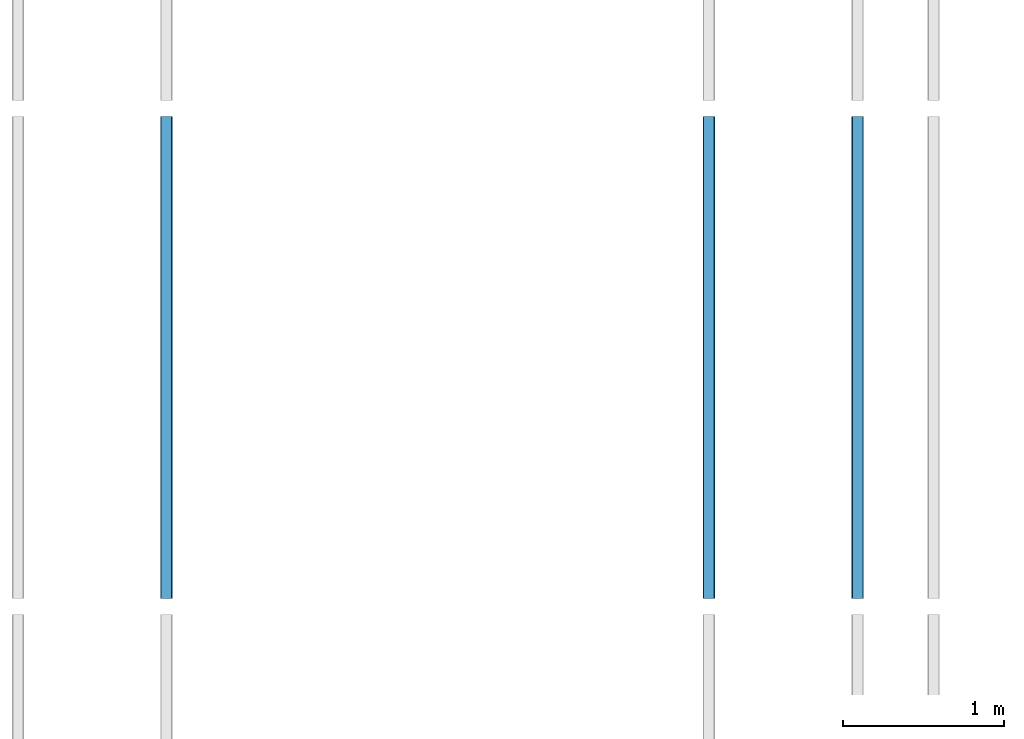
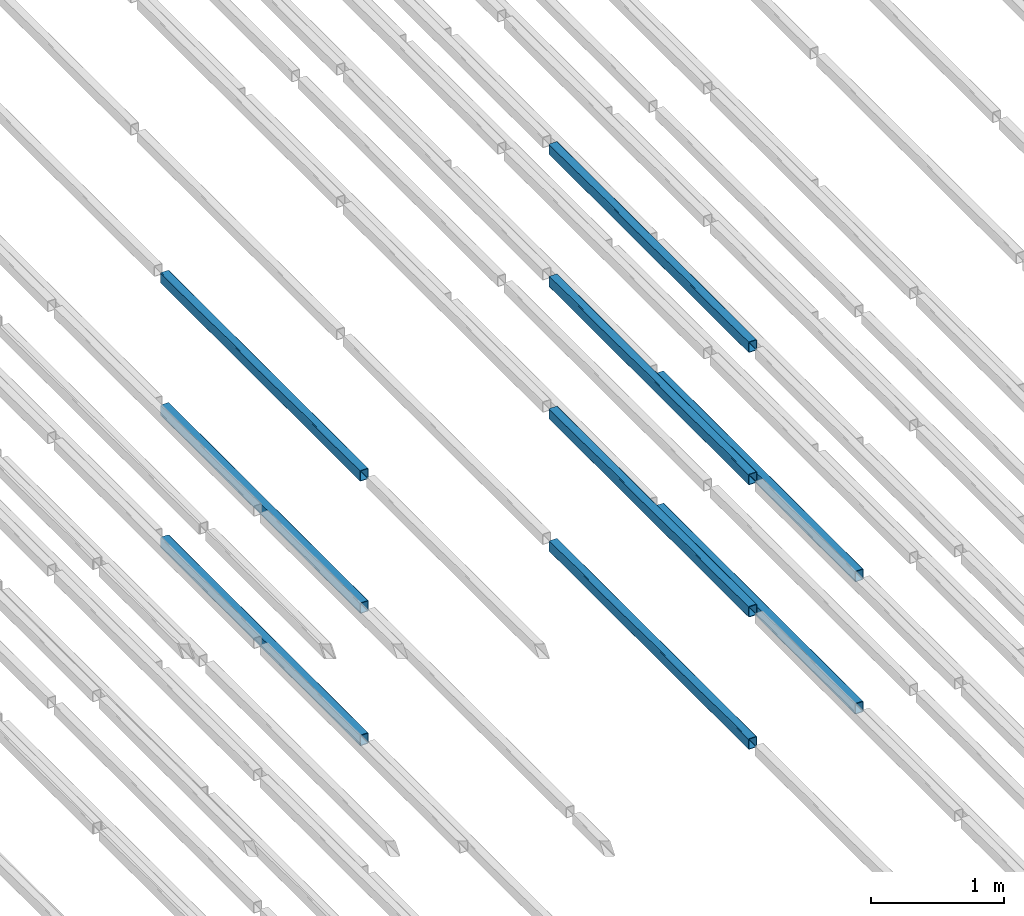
# One storey, part 48 of 290: 9 beams.
"""IFC2X3 building model written with IfcOpenShell, lengths in metres."""

from ifc_helpers import new_model, entity, si_unit, converted_unit, derived_unit, direction, frame, frame_2d, origin, place, context, subcontext, project, spatial, polyline, circle_curve, parameter, trimmed, segment, composite_curve, outline, extrude, material, type_object, element, save


model = new_model("IFC2X3")

# Units and contexts
model_context = context("Model", 3, precision=1e-05, world=origin(), true_north=direction((6.12303176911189e-17, 1.0)))
body_context = subcontext(model_context, "Body", "Model", "MODEL_VIEW")
ifc_project = project(units=[si_unit("LENGTHUNIT", "METRE"), si_unit("AREAUNIT", "SQUARE_METRE"), si_unit("VOLUMEUNIT", "CUBIC_METRE"), converted_unit("PLANEANGLEUNIT", "DEGREE", entity("IfcRatioMeasure", 0.0174532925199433), si_unit("PLANEANGLEUNIT", "RADIAN"), dimensions=[0, 0, 0, 0, 0, 0, 0]), si_unit("MASSUNIT", "GRAM", prefix="KILO"), derived_unit("MASSDENSITYUNIT", [(si_unit("MASSUNIT", "GRAM", prefix="KILO"), 1), (si_unit("LENGTHUNIT", "METRE"), -3)]), derived_unit("MOMENTOFINERTIAUNIT", [(si_unit("LENGTHUNIT", "METRE"), 4)]), si_unit("TIMEUNIT", "SECOND"), si_unit("FREQUENCYUNIT", "HERTZ"), si_unit("THERMODYNAMICTEMPERATUREUNIT", "DEGREE_CELSIUS"), derived_unit("THERMALTRANSMITTANCEUNIT", [(si_unit("MASSUNIT", "GRAM", prefix="KILO"), 1), (si_unit("THERMODYNAMICTEMPERATUREUNIT", "KELVIN"), -1), (si_unit("TIMEUNIT", "SECOND"), -3)]), derived_unit("VOLUMETRICFLOWRATEUNIT", [(si_unit("LENGTHUNIT", "METRE"), 3), (si_unit("TIMEUNIT", "SECOND"), -1)]), si_unit("ELECTRICCURRENTUNIT", "AMPERE"), si_unit("ELECTRICVOLTAGEUNIT", "VOLT"), si_unit("POWERUNIT", "WATT"), si_unit("FORCEUNIT", "NEWTON", prefix="KILO"), si_unit("ILLUMINANCEUNIT", "LUX"), si_unit("LUMINOUSFLUXUNIT", "LUMEN"), si_unit("LUMINOUSINTENSITYUNIT", "CANDELA"), derived_unit("USERDEFINED", [(si_unit("MASSUNIT", "GRAM", prefix="KILO"), -1), (si_unit("LENGTHUNIT", "METRE"), -2), (si_unit("TIMEUNIT", "SECOND"), 3), (si_unit("LUMINOUSFLUXUNIT", "LUMEN"), 1)]), derived_unit("LINEARVELOCITYUNIT", [(si_unit("LENGTHUNIT", "METRE"), 1), (si_unit("TIMEUNIT", "SECOND"), -1)]), si_unit("PRESSUREUNIT", "PASCAL"), derived_unit("USERDEFINED", [(si_unit("LENGTHUNIT", "METRE"), -2), (si_unit("MASSUNIT", "GRAM", prefix="KILO"), 1), (si_unit("TIMEUNIT", "SECOND"), -2)]), derived_unit("LINEARFORCEUNIT", [(si_unit("MASSUNIT", "GRAM", prefix="KILO"), 1), (si_unit("LENGTHUNIT", "METRE"), 1), (si_unit("TIMEUNIT", "SECOND"), -2), (si_unit("LENGTHUNIT", "METRE"), -1)]), derived_unit("PLANARFORCEUNIT", [(si_unit("MASSUNIT", "GRAM", prefix="KILO"), 1), (si_unit("LENGTHUNIT", "METRE"), 1), (si_unit("TIMEUNIT", "SECOND"), -2), (si_unit("LENGTHUNIT", "METRE"), -2)])], contexts=[model_context])

# Site, building, storey
site_placement = place(None, origin())
site = spatial("IfcSite", under=ifc_project, at=site_placement, Name="Default", CompositionType="ELEMENT")
building_placement = place(site_placement, origin())
building = spatial("IfcBuilding", under=site, at=building_placement, CompositionType="ELEMENT")
storey_placement = place(building_placement, frame((0.0, 0.0, 4.0)))
storey = spatial("IfcBuildingStorey", under=building, at=storey_placement, Name="01_OG", CompositionType="ELEMENT", Elevation=4.0)

# Beams
ifc_material = material(Name="Metall - Baustahl S235 blau")
beam_type = type_object("IfcBeamType", Name="RHS Träger (EN 10219-2):RHS 100 x 75 x 5", PredefinedType="NOTDEFINED")
beam_1_placement = place(storey_placement, frame((-196.415111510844, 36.448088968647, -1.2), z_axis=(0.0, 0.0, 1.0), x_axis=(0.0, 1.0, 0.0)))
element("IfcBeam", 1, at=beam_1_placement, inside=storey, type_object=beam_type, material=ifc_material, Name="RHS Träger (EN 10219-2):RHS 100 x 75 x 5", ObjectType="RHS Träger (EN 10219-2):RHS 100 x 75 x 5", context=body_context, shape_type="SweptSolid", body=[
    extrude(outline(composite_curve([segment(trimmed(circle_curve(frame_2d((-0.0274999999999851, -0.0400000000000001), x_axis=(1.0, 0.0)), 0.01), [parameter(180.0)], [parameter(270.0)], True, "PARAMETER"), True, "CONTINUOUS"), segment(polyline([(-0.0274999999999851, -0.05), (0.0274999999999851, -0.05)]), True, "CONTINUOUS"), segment(trimmed(circle_curve(frame_2d((0.0274999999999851, -0.0400000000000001), x_axis=(1.0, 0.0)), 0.01), [parameter(270.0)], [parameter(5.08888749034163e-14)], True, "PARAMETER"), True, "CONTINUOUS"), segment(polyline([(0.0375000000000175, -0.0400000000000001), (0.0375000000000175, 0.0400000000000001)]), True, "CONTINUOUS"), segment(trimmed(circle_curve(frame_2d((0.0274999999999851, 0.0400000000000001), x_axis=(1.0, 0.0)), 0.01), [parameter(360.0)], [parameter(89.9999999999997)], True, "PARAMETER"), True, "CONTINUOUS"), segment(polyline([(0.0274999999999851, 0.05), (-0.0274999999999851, 0.05)]), True, "CONTINUOUS"), segment(trimmed(circle_curve(frame_2d((-0.0274999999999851, 0.0400000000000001), x_axis=(1.0, 0.0)), 0.01), [parameter(90.0000000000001)], [parameter(180.0)], True, "PARAMETER"), True, "CONTINUOUS"), segment(polyline([(-0.0374999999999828, 0.0400000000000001), (-0.0374999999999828, -0.0400000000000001)]), True, "CONTINUOUS")], self_intersect=False), holes=[composite_curve([segment(polyline([(0.0274999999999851, -0.0450000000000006), (-0.0274999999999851, -0.0450000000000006)]), True, "CONTINUOUS"), segment(trimmed(circle_curve(frame_2d((-0.0274999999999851, -0.0400000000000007), x_axis=(1.0, 0.0)), 0.005), [parameter(180.0)], [parameter(270.0)], True, "PARAMETER"), False, "CONTINUOUS"), segment(polyline([(-0.0325000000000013, -0.0400000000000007), (-0.0325000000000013, 0.039999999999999)]), True, "CONTINUOUS"), segment(trimmed(circle_curve(frame_2d((-0.0274999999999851, 0.039999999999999), x_axis=(1.0, 0.0)), 0.005), [parameter(90.0000000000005)], [parameter(180.0)], True, "PARAMETER"), False, "CONTINUOUS"), segment(polyline([(-0.0274999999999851, 0.044999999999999), (0.0274999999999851, 0.044999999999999)]), True, "CONTINUOUS"), segment(trimmed(circle_curve(frame_2d((0.0274999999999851, 0.039999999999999), x_axis=(1.0, 0.0)), 0.005), [parameter(0.0)], [parameter(90.0000000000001)], True, "PARAMETER"), False, "CONTINUOUS"), segment(polyline([(0.0325000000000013, 0.039999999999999), (0.0325000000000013, -0.0400000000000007)]), True, "CONTINUOUS"), segment(trimmed(circle_curve(frame_2d((0.0274999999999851, -0.0400000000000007), x_axis=(1.0, 0.0)), 0.005), [parameter(270.0)], [parameter(4.07110999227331e-13)], True, "PARAMETER"), False, "CONTINUOUS")], self_intersect=False)]), frame((0.000100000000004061, 0.0375000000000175, -0.0500000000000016), z_axis=(1.0, 0.0, 0.0), x_axis=(0.0, -1.0, 0.0)), (0.0, 0.0, 1.0), 2.9998),
])
beam_2_placement = place(storey_placement, frame((-196.415111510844, 36.448088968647, 0.0150000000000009), z_axis=(0.0, 0.0, 1.0), x_axis=(0.0, 1.0, 0.0)))
element("IfcBeam", 2, at=beam_2_placement, inside=storey, type_object=beam_type, material=ifc_material, Name="RHS Träger (EN 10219-2):RHS 100 x 75 x 5", ObjectType="RHS Träger (EN 10219-2):RHS 100 x 75 x 5", context=body_context, shape_type="SweptSolid", body=[
    extrude(outline(composite_curve([segment(trimmed(circle_curve(frame_2d((-0.0274999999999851, -0.0400000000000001), x_axis=(1.0, 0.0)), 0.01), [parameter(180.0)], [parameter(270.0)], True, "PARAMETER"), True, "CONTINUOUS"), segment(polyline([(-0.0274999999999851, -0.05), (0.0274999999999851, -0.05)]), True, "CONTINUOUS"), segment(trimmed(circle_curve(frame_2d((0.0274999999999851, -0.0400000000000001), x_axis=(1.0, 0.0)), 0.01), [parameter(270.0)], [parameter(5.08888749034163e-14)], True, "PARAMETER"), True, "CONTINUOUS"), segment(polyline([(0.0375000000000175, -0.0400000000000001), (0.0375000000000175, 0.0400000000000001)]), True, "CONTINUOUS"), segment(trimmed(circle_curve(frame_2d((0.0274999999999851, 0.0400000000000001), x_axis=(1.0, 0.0)), 0.01), [parameter(360.0)], [parameter(89.9999999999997)], True, "PARAMETER"), True, "CONTINUOUS"), segment(polyline([(0.0274999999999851, 0.05), (-0.0274999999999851, 0.05)]), True, "CONTINUOUS"), segment(trimmed(circle_curve(frame_2d((-0.0274999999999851, 0.0400000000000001), x_axis=(1.0, 0.0)), 0.01), [parameter(90.0000000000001)], [parameter(180.0)], True, "PARAMETER"), True, "CONTINUOUS"), segment(polyline([(-0.0374999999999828, 0.0400000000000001), (-0.0374999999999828, -0.0400000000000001)]), True, "CONTINUOUS")], self_intersect=False), holes=[composite_curve([segment(polyline([(0.0274999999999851, -0.0450000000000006), (-0.0274999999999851, -0.0450000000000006)]), True, "CONTINUOUS"), segment(trimmed(circle_curve(frame_2d((-0.0274999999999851, -0.0400000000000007), x_axis=(1.0, 0.0)), 0.005), [parameter(180.0)], [parameter(270.0)], True, "PARAMETER"), False, "CONTINUOUS"), segment(polyline([(-0.0325000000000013, -0.0400000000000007), (-0.0325000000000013, 0.039999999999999)]), True, "CONTINUOUS"), segment(trimmed(circle_curve(frame_2d((-0.0274999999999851, 0.039999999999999), x_axis=(1.0, 0.0)), 0.005), [parameter(90.0000000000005)], [parameter(180.0)], True, "PARAMETER"), False, "CONTINUOUS"), segment(polyline([(-0.0274999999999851, 0.044999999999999), (0.0274999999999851, 0.044999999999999)]), True, "CONTINUOUS"), segment(trimmed(circle_curve(frame_2d((0.0274999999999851, 0.039999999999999), x_axis=(1.0, 0.0)), 0.005), [parameter(0.0)], [parameter(90.0000000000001)], True, "PARAMETER"), False, "CONTINUOUS"), segment(polyline([(0.0325000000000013, 0.039999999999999), (0.0325000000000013, -0.0400000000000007)]), True, "CONTINUOUS"), segment(trimmed(circle_curve(frame_2d((0.0274999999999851, -0.0400000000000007), x_axis=(1.0, 0.0)), 0.005), [parameter(270.0)], [parameter(4.07110999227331e-13)], True, "PARAMETER"), False, "CONTINUOUS")], self_intersect=False)]), frame((0.000100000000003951, 0.0375000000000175, -0.0500000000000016), z_axis=(1.0, 0.0, 0.0), x_axis=(0.0, -1.0, 0.0)), (0.0, 0.0, 1.0), 2.9998),
])
beam_3_placement = place(storey_placement, frame((-196.415111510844, 36.448088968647, 1.23), z_axis=(0.0, 0.0, 1.0), x_axis=(0.0, 1.0, 0.0)))
element("IfcBeam", 3, at=beam_3_placement, inside=storey, type_object=beam_type, material=ifc_material, Name="RHS Träger (EN 10219-2):RHS 100 x 75 x 5", ObjectType="RHS Träger (EN 10219-2):RHS 100 x 75 x 5", context=body_context, shape_type="SweptSolid", body=[
    extrude(outline(composite_curve([segment(trimmed(circle_curve(frame_2d((-0.0274999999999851, -0.0399999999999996), x_axis=(1.0, 0.0)), 0.01), [parameter(180.0)], [parameter(270.0)], True, "PARAMETER"), True, "CONTINUOUS"), segment(polyline([(-0.0274999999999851, -0.0499999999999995), (0.0274999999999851, -0.0499999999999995)]), True, "CONTINUOUS"), segment(trimmed(circle_curve(frame_2d((0.0274999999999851, -0.0399999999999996), x_axis=(1.0, 0.0)), 0.01), [parameter(270.0)], [parameter(5.08888749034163e-14)], True, "PARAMETER"), True, "CONTINUOUS"), segment(polyline([(0.0375000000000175, -0.0399999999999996), (0.0375000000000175, 0.0399999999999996)]), True, "CONTINUOUS"), segment(trimmed(circle_curve(frame_2d((0.0274999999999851, 0.0399999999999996), x_axis=(1.0, 0.0)), 0.01), [parameter(360.0)], [parameter(89.9999999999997)], True, "PARAMETER"), True, "CONTINUOUS"), segment(polyline([(0.0274999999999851, 0.0500000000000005), (-0.0274999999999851, 0.0500000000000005)]), True, "CONTINUOUS"), segment(trimmed(circle_curve(frame_2d((-0.0274999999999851, 0.0399999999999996), x_axis=(1.0, 0.0)), 0.01), [parameter(90.0000000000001)], [parameter(180.0)], True, "PARAMETER"), True, "CONTINUOUS"), segment(polyline([(-0.0374999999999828, 0.0399999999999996), (-0.0374999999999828, -0.0399999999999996)]), True, "CONTINUOUS")], self_intersect=False), holes=[composite_curve([segment(polyline([(0.0274999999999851, -0.0450000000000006), (-0.0274999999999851, -0.0450000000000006)]), True, "CONTINUOUS"), segment(trimmed(circle_curve(frame_2d((-0.0274999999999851, -0.0400000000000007), x_axis=(1.0, 0.0)), 0.005), [parameter(180.0)], [parameter(270.0)], True, "PARAMETER"), False, "CONTINUOUS"), segment(polyline([(-0.0325000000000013, -0.0400000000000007), (-0.0325000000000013, 0.0399999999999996)]), True, "CONTINUOUS"), segment(trimmed(circle_curve(frame_2d((-0.0274999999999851, 0.0399999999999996), x_axis=(1.0, 0.0)), 0.005), [parameter(90.0000000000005)], [parameter(180.0)], True, "PARAMETER"), False, "CONTINUOUS"), segment(polyline([(-0.0274999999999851, 0.0449999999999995), (0.0274999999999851, 0.0449999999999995)]), True, "CONTINUOUS"), segment(trimmed(circle_curve(frame_2d((0.0274999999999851, 0.0399999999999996), x_axis=(1.0, 0.0)), 0.005), [parameter(0.0)], [parameter(90.0000000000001)], True, "PARAMETER"), False, "CONTINUOUS"), segment(polyline([(0.0325000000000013, 0.0399999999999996), (0.0325000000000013, -0.0400000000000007)]), True, "CONTINUOUS"), segment(trimmed(circle_curve(frame_2d((0.0274999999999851, -0.0400000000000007), x_axis=(1.0, 0.0)), 0.005), [parameter(270.0)], [parameter(4.07110999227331e-13)], True, "PARAMETER"), False, "CONTINUOUS")], self_intersect=False)]), frame((0.000100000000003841, 0.0375000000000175, -0.0500000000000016), z_axis=(1.0, 0.0, 0.0), x_axis=(0.0, -1.0, 0.0)), (0.0, 0.0, 1.0), 2.9998),
])
beam_4_placement = place(storey_placement, frame((-196.415111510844, 36.448088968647, 2.445), z_axis=(0.0, 0.0, 1.0), x_axis=(0.0, 1.0, 0.0)))
element("IfcBeam", 4, at=beam_4_placement, inside=storey, type_object=beam_type, material=ifc_material, Name="RHS Träger (EN 10219-2):RHS 100 x 75 x 5", ObjectType="RHS Träger (EN 10219-2):RHS 100 x 75 x 5", context=body_context, shape_type="SweptSolid", body=[
    extrude(outline(composite_curve([segment(trimmed(circle_curve(frame_2d((-0.0274999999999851, -0.0399999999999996), x_axis=(1.0, 0.0)), 0.01), [parameter(180.0)], [parameter(270.0)], True, "PARAMETER"), True, "CONTINUOUS"), segment(polyline([(-0.0274999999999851, -0.0499999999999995), (0.0274999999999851, -0.0499999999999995)]), True, "CONTINUOUS"), segment(trimmed(circle_curve(frame_2d((0.0274999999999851, -0.0399999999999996), x_axis=(1.0, 0.0)), 0.01), [parameter(270.0)], [parameter(5.08888749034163e-14)], True, "PARAMETER"), True, "CONTINUOUS"), segment(polyline([(0.0375000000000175, -0.0399999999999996), (0.0375000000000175, 0.0399999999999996)]), True, "CONTINUOUS"), segment(trimmed(circle_curve(frame_2d((0.0274999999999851, 0.0399999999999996), x_axis=(1.0, 0.0)), 0.01), [parameter(360.0)], [parameter(89.9999999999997)], True, "PARAMETER"), True, "CONTINUOUS"), segment(polyline([(0.0274999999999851, 0.0500000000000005), (-0.0274999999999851, 0.0500000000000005)]), True, "CONTINUOUS"), segment(trimmed(circle_curve(frame_2d((-0.0274999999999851, 0.0399999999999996), x_axis=(1.0, 0.0)), 0.01), [parameter(90.0000000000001)], [parameter(180.0)], True, "PARAMETER"), True, "CONTINUOUS"), segment(polyline([(-0.0374999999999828, 0.0399999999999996), (-0.0374999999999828, -0.0399999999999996)]), True, "CONTINUOUS")], self_intersect=False), holes=[composite_curve([segment(polyline([(0.0274999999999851, -0.0450000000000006), (-0.0274999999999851, -0.0450000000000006)]), True, "CONTINUOUS"), segment(trimmed(circle_curve(frame_2d((-0.0274999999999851, -0.0400000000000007), x_axis=(1.0, 0.0)), 0.005), [parameter(180.0)], [parameter(270.0)], True, "PARAMETER"), False, "CONTINUOUS"), segment(polyline([(-0.0325000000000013, -0.0400000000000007), (-0.0325000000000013, 0.0399999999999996)]), True, "CONTINUOUS"), segment(trimmed(circle_curve(frame_2d((-0.0274999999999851, 0.0399999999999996), x_axis=(1.0, 0.0)), 0.005), [parameter(90.0000000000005)], [parameter(180.0)], True, "PARAMETER"), False, "CONTINUOUS"), segment(polyline([(-0.0274999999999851, 0.0449999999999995), (0.0274999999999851, 0.0449999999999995)]), True, "CONTINUOUS"), segment(trimmed(circle_curve(frame_2d((0.0274999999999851, 0.0399999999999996), x_axis=(1.0, 0.0)), 0.005), [parameter(0.0)], [parameter(90.0000000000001)], True, "PARAMETER"), False, "CONTINUOUS"), segment(polyline([(0.0325000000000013, 0.0399999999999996), (0.0325000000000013, -0.0400000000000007)]), True, "CONTINUOUS"), segment(trimmed(circle_curve(frame_2d((0.0274999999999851, -0.0400000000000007), x_axis=(1.0, 0.0)), 0.005), [parameter(270.0)], [parameter(4.07110999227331e-13)], True, "PARAMETER"), False, "CONTINUOUS")], self_intersect=False)]), frame((0.000100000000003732, 0.0375000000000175, -0.0500000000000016), z_axis=(1.0, 0.0, 0.0), x_axis=(0.0, -1.0, 0.0)), (0.0, 0.0, 1.0), 2.9998),
])
beam_5_placement = place(storey_placement, frame((-195.565111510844, 36.448088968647, -1.2), z_axis=(0.0, 0.0, 1.0), x_axis=(0.0, 1.0, 0.0)))
element("IfcBeam", 5, at=beam_5_placement, inside=storey, type_object=beam_type, material=ifc_material, Name="RHS Träger (EN 10219-2):RHS 100 x 75 x 5", ObjectType="RHS Träger (EN 10219-2):RHS 100 x 75 x 5", context=body_context, shape_type="SweptSolid", body=[
    extrude(outline(composite_curve([segment(polyline([(-0.0400000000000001, -0.0374999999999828), (0.0400000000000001, -0.0374999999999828)]), True, "CONTINUOUS"), segment(trimmed(circle_curve(frame_2d((0.0400000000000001, -0.0274999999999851), x_axis=(0.0, 1.0)), 0.01), [parameter(180.0)], [parameter(270.0)], True, "PARAMETER"), True, "CONTINUOUS"), segment(polyline([(0.05, -0.0274999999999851), (0.05, 0.0274999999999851)]), True, "CONTINUOUS"), segment(trimmed(circle_curve(frame_2d((0.0400000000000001, 0.0274999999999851), x_axis=(0.0, 1.0)), 0.01), [parameter(270.0)], [parameter(4.07110999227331e-13)], True, "PARAMETER"), True, "CONTINUOUS"), segment(polyline([(0.0400000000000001, 0.0375000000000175), (-0.0400000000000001, 0.0375000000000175)]), True, "CONTINUOUS"), segment(trimmed(circle_curve(frame_2d((-0.0400000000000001, 0.0274999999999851), x_axis=(0.0, 1.0)), 0.01), [parameter(360.0)], [parameter(90.0000000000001)], True, "PARAMETER"), True, "CONTINUOUS"), segment(polyline([(-0.05, 0.0274999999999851), (-0.05, -0.0274999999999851)]), True, "CONTINUOUS"), segment(trimmed(circle_curve(frame_2d((-0.0400000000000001, -0.0274999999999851), x_axis=(0.0, 1.0)), 0.01), [parameter(90.0000000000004)], [parameter(180.0)], True, "PARAMETER"), True, "CONTINUOUS")], self_intersect=False), holes=[composite_curve([segment(trimmed(circle_curve(frame_2d((-0.0400000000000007, 0.0274999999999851), x_axis=(0.0, 1.0)), 0.005), [parameter(360.0)], [parameter(89.9999999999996)], True, "PARAMETER"), False, "CONTINUOUS"), segment(polyline([(-0.0400000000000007, 0.0325000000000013), (0.039999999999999, 0.0325000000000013)]), True, "CONTINUOUS"), segment(trimmed(circle_curve(frame_2d((0.039999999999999, 0.0274999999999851), x_axis=(0.0, 1.0)), 0.005), [parameter(270.0)], [parameter(0.0)], True, "PARAMETER"), False, "CONTINUOUS"), segment(polyline([(0.044999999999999, 0.0274999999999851), (0.044999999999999, -0.0274999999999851)]), True, "CONTINUOUS"), segment(trimmed(circle_curve(frame_2d((0.039999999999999, -0.0274999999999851), x_axis=(0.0, 1.0)), 0.005), [parameter(180.0)], [parameter(269.999999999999)], True, "PARAMETER"), False, "CONTINUOUS"), segment(polyline([(0.039999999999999, -0.0325000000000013), (-0.0400000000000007, -0.0325000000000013)]), True, "CONTINUOUS"), segment(trimmed(circle_curve(frame_2d((-0.0400000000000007, -0.0274999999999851), x_axis=(0.0, 1.0)), 0.005), [parameter(90.0000000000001)], [parameter(180.0)], True, "PARAMETER"), False, "CONTINUOUS"), segment(polyline([(-0.0450000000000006, -0.0274999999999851), (-0.0450000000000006, 0.0274999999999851)]), True, "CONTINUOUS")], self_intersect=False)]), frame((0.000100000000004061, -0.0375000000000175, -0.0500000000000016), z_axis=(1.0, 0.0, 0.0), x_axis=(0.0, 0.0, -1.0)), (0.0, 0.0, 1.0), 2.9998),
])
beam_6_placement = place(storey_placement, frame((-195.565111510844, 36.448088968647, 0.0150000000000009), z_axis=(0.0, 0.0, 1.0), x_axis=(0.0, 1.0, 0.0)))
element("IfcBeam", 6, at=beam_6_placement, inside=storey, type_object=beam_type, material=ifc_material, Name="RHS Träger (EN 10219-2):RHS 100 x 75 x 5", ObjectType="RHS Träger (EN 10219-2):RHS 100 x 75 x 5", context=body_context, shape_type="SweptSolid", body=[
    extrude(outline(composite_curve([segment(polyline([(-0.0400000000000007, -0.0374999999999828), (0.0399999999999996, -0.0374999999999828)]), True, "CONTINUOUS"), segment(trimmed(circle_curve(frame_2d((0.0399999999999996, -0.0274999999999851), x_axis=(0.0, 1.0)), 0.01), [parameter(180.0)], [parameter(270.0)], True, "PARAMETER"), True, "CONTINUOUS"), segment(polyline([(0.0499999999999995, -0.0274999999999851), (0.0499999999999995, 0.0274999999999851)]), True, "CONTINUOUS"), segment(trimmed(circle_curve(frame_2d((0.0399999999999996, 0.0274999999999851), x_axis=(0.0, 1.0)), 0.01), [parameter(270.0)], [parameter(4.07110999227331e-13)], True, "PARAMETER"), True, "CONTINUOUS"), segment(polyline([(0.0399999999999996, 0.0375000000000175), (-0.0400000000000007, 0.0375000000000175)]), True, "CONTINUOUS"), segment(trimmed(circle_curve(frame_2d((-0.0400000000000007, 0.0274999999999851), x_axis=(0.0, 1.0)), 0.01), [parameter(360.0)], [parameter(90.0000000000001)], True, "PARAMETER"), True, "CONTINUOUS"), segment(polyline([(-0.0500000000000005, 0.0274999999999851), (-0.0500000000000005, -0.0274999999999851)]), True, "CONTINUOUS"), segment(trimmed(circle_curve(frame_2d((-0.0400000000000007, -0.0274999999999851), x_axis=(0.0, 1.0)), 0.01), [parameter(90.0000000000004)], [parameter(180.0)], True, "PARAMETER"), True, "CONTINUOUS")], self_intersect=False), holes=[composite_curve([segment(trimmed(circle_curve(frame_2d((-0.0400000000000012, 0.0274999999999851), x_axis=(0.0, 1.0)), 0.005), [parameter(360.0)], [parameter(89.9999999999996)], True, "PARAMETER"), False, "CONTINUOUS"), segment(polyline([(-0.0400000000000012, 0.0325000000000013), (0.0399999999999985, 0.0325000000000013)]), True, "CONTINUOUS"), segment(trimmed(circle_curve(frame_2d((0.0399999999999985, 0.0274999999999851), x_axis=(0.0, 1.0)), 0.005), [parameter(270.0)], [parameter(0.0)], True, "PARAMETER"), False, "CONTINUOUS"), segment(polyline([(0.0449999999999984, 0.0274999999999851), (0.0449999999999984, -0.0274999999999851)]), True, "CONTINUOUS"), segment(trimmed(circle_curve(frame_2d((0.0399999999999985, -0.0274999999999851), x_axis=(0.0, 1.0)), 0.005), [parameter(180.0)], [parameter(269.999999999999)], True, "PARAMETER"), False, "CONTINUOUS"), segment(polyline([(0.0399999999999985, -0.0325000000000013), (-0.0400000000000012, -0.0325000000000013)]), True, "CONTINUOUS"), segment(trimmed(circle_curve(frame_2d((-0.0400000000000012, -0.0274999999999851), x_axis=(0.0, 1.0)), 0.005), [parameter(90.0000000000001)], [parameter(180.0)], True, "PARAMETER"), False, "CONTINUOUS"), segment(polyline([(-0.0450000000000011, -0.0274999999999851), (-0.0450000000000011, 0.0274999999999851)]), True, "CONTINUOUS")], self_intersect=False)]), frame((0.000100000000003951, -0.0375000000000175, -0.0500000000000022), z_axis=(1.0, 0.0, 0.0), x_axis=(0.0, 0.0, -1.0)), (0.0, 0.0, 1.0), 2.9998),
])
beam_7_placement = place(storey_placement, frame((-199.865111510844, 36.448088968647, 0.0150000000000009), z_axis=(0.0, 0.0, 1.0), x_axis=(0.0, 1.0, 0.0)))
element("IfcBeam", 7, at=beam_7_placement, inside=storey, type_object=beam_type, material=ifc_material, Name="RHS Träger (EN 10219-2):RHS 100 x 75 x 5", ObjectType="RHS Träger (EN 10219-2):RHS 100 x 75 x 5", context=body_context, shape_type="SweptSolid", body=[
    extrude(outline(composite_curve([segment(polyline([(-0.0400000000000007, -0.0374999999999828), (0.0399999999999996, -0.0374999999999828)]), True, "CONTINUOUS"), segment(trimmed(circle_curve(frame_2d((0.0399999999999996, -0.0274999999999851), x_axis=(0.0, 1.0)), 0.01), [parameter(180.0)], [parameter(270.0)], True, "PARAMETER"), True, "CONTINUOUS"), segment(polyline([(0.0499999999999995, -0.0274999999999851), (0.0499999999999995, 0.0274999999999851)]), True, "CONTINUOUS"), segment(trimmed(circle_curve(frame_2d((0.0399999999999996, 0.0274999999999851), x_axis=(0.0, 1.0)), 0.01), [parameter(270.0)], [parameter(4.07110999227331e-13)], True, "PARAMETER"), True, "CONTINUOUS"), segment(polyline([(0.0399999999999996, 0.0375000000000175), (-0.0400000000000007, 0.0375000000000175)]), True, "CONTINUOUS"), segment(trimmed(circle_curve(frame_2d((-0.0400000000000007, 0.0274999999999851), x_axis=(0.0, 1.0)), 0.01), [parameter(360.0)], [parameter(90.0000000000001)], True, "PARAMETER"), True, "CONTINUOUS"), segment(polyline([(-0.0500000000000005, 0.0274999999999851), (-0.0500000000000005, -0.0274999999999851)]), True, "CONTINUOUS"), segment(trimmed(circle_curve(frame_2d((-0.0400000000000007, -0.0274999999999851), x_axis=(0.0, 1.0)), 0.01), [parameter(90.0000000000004)], [parameter(180.0)], True, "PARAMETER"), True, "CONTINUOUS")], self_intersect=False), holes=[composite_curve([segment(trimmed(circle_curve(frame_2d((-0.0400000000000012, 0.0274999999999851), x_axis=(0.0, 1.0)), 0.005), [parameter(360.0)], [parameter(89.9999999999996)], True, "PARAMETER"), False, "CONTINUOUS"), segment(polyline([(-0.0400000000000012, 0.0325000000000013), (0.0399999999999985, 0.0325000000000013)]), True, "CONTINUOUS"), segment(trimmed(circle_curve(frame_2d((0.0399999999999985, 0.0274999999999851), x_axis=(0.0, 1.0)), 0.005), [parameter(270.0)], [parameter(0.0)], True, "PARAMETER"), False, "CONTINUOUS"), segment(polyline([(0.0449999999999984, 0.0274999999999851), (0.0449999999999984, -0.0274999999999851)]), True, "CONTINUOUS"), segment(trimmed(circle_curve(frame_2d((0.0399999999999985, -0.0274999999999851), x_axis=(0.0, 1.0)), 0.005), [parameter(180.0)], [parameter(269.999999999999)], True, "PARAMETER"), False, "CONTINUOUS"), segment(polyline([(0.0399999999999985, -0.0325000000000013), (-0.0400000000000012, -0.0325000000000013)]), True, "CONTINUOUS"), segment(trimmed(circle_curve(frame_2d((-0.0400000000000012, -0.0274999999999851), x_axis=(0.0, 1.0)), 0.005), [parameter(90.0000000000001)], [parameter(180.0)], True, "PARAMETER"), False, "CONTINUOUS"), segment(polyline([(-0.0450000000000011, -0.0274999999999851), (-0.0450000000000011, 0.0274999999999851)]), True, "CONTINUOUS")], self_intersect=False)]), frame((9.9999999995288e-05, -0.0375000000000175, -0.0500000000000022), z_axis=(1.0, 0.0, 0.0), x_axis=(0.0, 0.0, -1.0)), (0.0, 0.0, 1.0), 2.9998),
])
beam_8_placement = place(storey_placement, frame((-199.865111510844, 36.448088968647, 1.23), z_axis=(0.0, 0.0, 1.0), x_axis=(0.0, 1.0, 0.0)))
element("IfcBeam", 8, at=beam_8_placement, inside=storey, type_object=beam_type, material=ifc_material, Name="RHS Träger (EN 10219-2):RHS 100 x 75 x 5", ObjectType="RHS Träger (EN 10219-2):RHS 100 x 75 x 5", context=body_context, shape_type="SweptSolid", body=[
    extrude(outline(composite_curve([segment(polyline([(-0.0399999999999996, -0.0374999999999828), (0.0399999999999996, -0.0374999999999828)]), True, "CONTINUOUS"), segment(trimmed(circle_curve(frame_2d((0.0399999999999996, -0.0274999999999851), x_axis=(0.0, 1.0)), 0.01), [parameter(180.0)], [parameter(270.0)], True, "PARAMETER"), True, "CONTINUOUS"), segment(polyline([(0.0500000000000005, -0.0274999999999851), (0.0500000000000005, 0.0274999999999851)]), True, "CONTINUOUS"), segment(trimmed(circle_curve(frame_2d((0.0399999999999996, 0.0274999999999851), x_axis=(0.0, 1.0)), 0.01), [parameter(270.0)], [parameter(4.07110999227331e-13)], True, "PARAMETER"), True, "CONTINUOUS"), segment(polyline([(0.0399999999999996, 0.0375000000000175), (-0.0399999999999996, 0.0375000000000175)]), True, "CONTINUOUS"), segment(trimmed(circle_curve(frame_2d((-0.0399999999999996, 0.0274999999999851), x_axis=(0.0, 1.0)), 0.01), [parameter(360.0)], [parameter(90.0000000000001)], True, "PARAMETER"), True, "CONTINUOUS"), segment(polyline([(-0.0499999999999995, 0.0274999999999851), (-0.0499999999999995, -0.0274999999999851)]), True, "CONTINUOUS"), segment(trimmed(circle_curve(frame_2d((-0.0399999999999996, -0.0274999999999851), x_axis=(0.0, 1.0)), 0.01), [parameter(90.0000000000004)], [parameter(180.0)], True, "PARAMETER"), True, "CONTINUOUS")], self_intersect=False), holes=[composite_curve([segment(trimmed(circle_curve(frame_2d((-0.0400000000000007, 0.0274999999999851), x_axis=(0.0, 1.0)), 0.005), [parameter(360.0)], [parameter(89.9999999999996)], True, "PARAMETER"), False, "CONTINUOUS"), segment(polyline([(-0.0400000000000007, 0.0325000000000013), (0.0399999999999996, 0.0325000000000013)]), True, "CONTINUOUS"), segment(trimmed(circle_curve(frame_2d((0.0399999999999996, 0.0274999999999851), x_axis=(0.0, 1.0)), 0.005), [parameter(270.0)], [parameter(0.0)], True, "PARAMETER"), False, "CONTINUOUS"), segment(polyline([(0.0449999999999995, 0.0274999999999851), (0.0449999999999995, -0.0274999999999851)]), True, "CONTINUOUS"), segment(trimmed(circle_curve(frame_2d((0.0399999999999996, -0.0274999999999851), x_axis=(0.0, 1.0)), 0.005), [parameter(180.0)], [parameter(269.999999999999)], True, "PARAMETER"), False, "CONTINUOUS"), segment(polyline([(0.0399999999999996, -0.0325000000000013), (-0.0400000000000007, -0.0325000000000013)]), True, "CONTINUOUS"), segment(trimmed(circle_curve(frame_2d((-0.0400000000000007, -0.0274999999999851), x_axis=(0.0, 1.0)), 0.005), [parameter(90.0000000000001)], [parameter(180.0)], True, "PARAMETER"), False, "CONTINUOUS"), segment(polyline([(-0.0450000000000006, -0.0274999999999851), (-0.0450000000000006, 0.0274999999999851)]), True, "CONTINUOUS")], self_intersect=False)]), frame((9.99999999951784e-05, -0.0375000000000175, -0.0500000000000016), z_axis=(1.0, 0.0, 0.0), x_axis=(0.0, 0.0, -1.0)), (0.0, 0.0, 1.0), 2.9998),
])
beam_9_placement = place(storey_placement, frame((-199.865111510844, 36.448088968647, 2.445), z_axis=(0.0, 0.0, 1.0), x_axis=(0.0, 1.0, 0.0)))
element("IfcBeam", 9, at=beam_9_placement, inside=storey, type_object=beam_type, material=ifc_material, Name="RHS Träger (EN 10219-2):RHS 100 x 75 x 5", ObjectType="RHS Träger (EN 10219-2):RHS 100 x 75 x 5", context=body_context, shape_type="SweptSolid", body=[
    extrude(outline(composite_curve([segment(polyline([(-0.0399999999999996, -0.0374999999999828), (0.0399999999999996, -0.0374999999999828)]), True, "CONTINUOUS"), segment(trimmed(circle_curve(frame_2d((0.0399999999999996, -0.0274999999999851), x_axis=(0.0, 1.0)), 0.01), [parameter(180.0)], [parameter(270.0)], True, "PARAMETER"), True, "CONTINUOUS"), segment(polyline([(0.0500000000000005, -0.0274999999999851), (0.0500000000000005, 0.0274999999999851)]), True, "CONTINUOUS"), segment(trimmed(circle_curve(frame_2d((0.0399999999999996, 0.0274999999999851), x_axis=(0.0, 1.0)), 0.01), [parameter(270.0)], [parameter(4.07110999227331e-13)], True, "PARAMETER"), True, "CONTINUOUS"), segment(polyline([(0.0399999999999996, 0.0375000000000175), (-0.0399999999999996, 0.0375000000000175)]), True, "CONTINUOUS"), segment(trimmed(circle_curve(frame_2d((-0.0399999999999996, 0.0274999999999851), x_axis=(0.0, 1.0)), 0.01), [parameter(360.0)], [parameter(90.0000000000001)], True, "PARAMETER"), True, "CONTINUOUS"), segment(polyline([(-0.0499999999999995, 0.0274999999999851), (-0.0499999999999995, -0.0274999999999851)]), True, "CONTINUOUS"), segment(trimmed(circle_curve(frame_2d((-0.0399999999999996, -0.0274999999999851), x_axis=(0.0, 1.0)), 0.01), [parameter(90.0000000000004)], [parameter(180.0)], True, "PARAMETER"), True, "CONTINUOUS")], self_intersect=False), holes=[composite_curve([segment(trimmed(circle_curve(frame_2d((-0.0400000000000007, 0.0274999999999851), x_axis=(0.0, 1.0)), 0.005), [parameter(360.0)], [parameter(89.9999999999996)], True, "PARAMETER"), False, "CONTINUOUS"), segment(polyline([(-0.0400000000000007, 0.0325000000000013), (0.0399999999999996, 0.0325000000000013)]), True, "CONTINUOUS"), segment(trimmed(circle_curve(frame_2d((0.0399999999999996, 0.0274999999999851), x_axis=(0.0, 1.0)), 0.005), [parameter(270.0)], [parameter(0.0)], True, "PARAMETER"), False, "CONTINUOUS"), segment(polyline([(0.0449999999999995, 0.0274999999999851), (0.0449999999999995, -0.0274999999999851)]), True, "CONTINUOUS"), segment(trimmed(circle_curve(frame_2d((0.0399999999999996, -0.0274999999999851), x_axis=(0.0, 1.0)), 0.005), [parameter(180.0)], [parameter(269.999999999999)], True, "PARAMETER"), False, "CONTINUOUS"), segment(polyline([(0.0399999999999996, -0.0325000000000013), (-0.0400000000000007, -0.0325000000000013)]), True, "CONTINUOUS"), segment(trimmed(circle_curve(frame_2d((-0.0400000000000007, -0.0274999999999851), x_axis=(0.0, 1.0)), 0.005), [parameter(90.0000000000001)], [parameter(180.0)], True, "PARAMETER"), False, "CONTINUOUS"), segment(polyline([(-0.0450000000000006, -0.0274999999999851), (-0.0450000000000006, 0.0274999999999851)]), True, "CONTINUOUS")], self_intersect=False)]), frame((9.99999999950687e-05, -0.0375000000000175, -0.0500000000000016), z_axis=(1.0, 0.0, 0.0), x_axis=(0.0, 0.0, -1.0)), (0.0, 0.0, 1.0), 2.9998),
])

save(model, "model.ifc")
